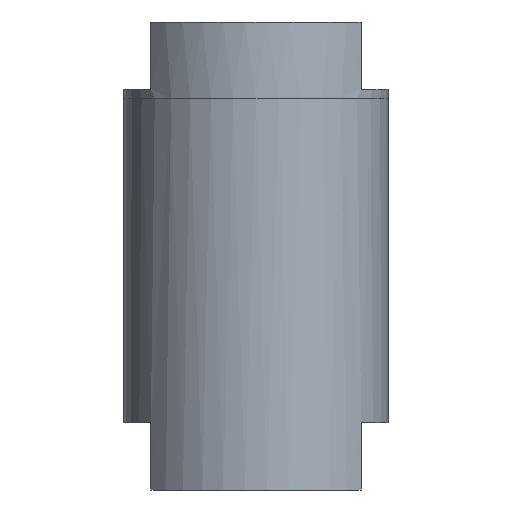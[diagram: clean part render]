
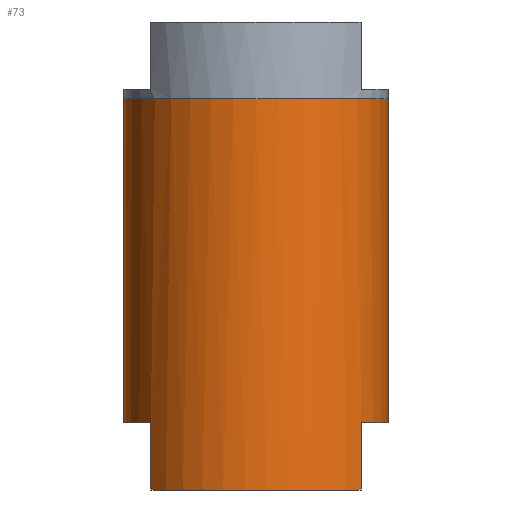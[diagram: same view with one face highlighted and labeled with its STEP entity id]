
A CAD part, front view. The second image highlights one B-rep face of the part: STEP entity #73.
In plain terms, the highlighted cylindrical face has radius 43.752 mm (diameter 87.503 mm), a partial arc.
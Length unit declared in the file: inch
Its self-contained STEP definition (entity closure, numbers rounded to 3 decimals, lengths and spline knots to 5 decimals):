
#24 = EDGE_CURVE ( 'NONE', #688, #691, #293, .T. ) ;
#31 = EDGE_CURVE ( 'NONE', #708, #707, #421, .T. ) ;
#59 = EDGE_CURVE ( 'NONE', #687, #700, #619, .T. ) ;
#73 = ADVANCED_FACE ( 'NONE', ( #585 ), #587, .T. ) ;
#82 = EDGE_CURVE ( 'NONE', #688, #687, #424, .T. ) ;
#84 = EDGE_CURVE ( 'NONE', #691, #682, #436, .T. ) ;
#85 = EDGE_CURVE ( 'NONE', #682, #708, #626, .T. ) ;
#86 = EDGE_CURVE ( 'NONE', #681, #707, #633, .T. ) ;
#88 = EDGE_CURVE ( 'NONE', #700, #681, #399, .T. ) ;
#102 = CARTESIAN_POINT ( 'NONE',  ( -1.37, -1.04408, 0.875 ) ) ;
#107 = CARTESIAN_POINT ( 'NONE',  ( 1.7225, 0., 5.099 ) ) ;
#108 = CARTESIAN_POINT ( 'NONE',  ( -1.7225, 0., 5.099 ) ) ;
#111 = CARTESIAN_POINT ( 'NONE',  ( -1.7225, 0., 0.875 ) ) ;
#120 = CARTESIAN_POINT ( 'NONE',  ( 1.7225, 0., 0.875 ) ) ;
#127 = CARTESIAN_POINT ( 'NONE',  ( 1.37, -1.04408, 0. ) ) ;
#128 = CARTESIAN_POINT ( 'NONE',  ( -1.37, -1.04408, 0. ) ) ;
#161 = EDGE_LOOP ( 'NONE', ( #384, #383, #382, #381, #663, #661, #660, #659 ) ) ;
#290 = CARTESIAN_POINT ( 'NONE',  ( -1.7225, 0., 6.1 ) ) ;
#293 = LINE ( 'NONE', #290, #416 ) ;
#298 = DIRECTION ( 'NONE',  ( 0., 0., -1. ) ) ;
#317 = CARTESIAN_POINT ( 'NONE',  ( 0., 0., 0. ) ) ;
#318 = DIRECTION ( 'NONE',  ( 0., 0., 1. ) ) ;
#319 = DIRECTION ( 'NONE',  ( 1., 0., 0. ) ) ;
#377 = DIRECTION ( 'NONE',  ( 0., 0., -1. ) ) ;
#381 = ORIENTED_EDGE ( 'NONE', *, *, #84, .T. ) ;
#382 = ORIENTED_EDGE ( 'NONE', *, *, #24, .T. ) ;
#383 = ORIENTED_EDGE ( 'NONE', *, *, #82, .F. ) ;
#384 = ORIENTED_EDGE ( 'NONE', *, *, #59, .F. ) ;
#397 = AXIS2_PLACEMENT_3D ( 'NONE', #640, #641, #642 ) ;
#399 = CIRCLE ( 'NONE', #397, 1.7225 ) ;
#407 = VECTOR ( 'NONE', #635, 39.37008 ) ;
#409 = AXIS2_PLACEMENT_3D ( 'NONE', #628, #629, #630 ) ;
#410 = VECTOR ( 'NONE', #632, 39.37008 ) ;
#416 = VECTOR ( 'NONE', #298, 39.37008 ) ;
#417 = AXIS2_PLACEMENT_3D ( 'NONE', #623, #624, #625 ) ;
#421 = CIRCLE ( 'NONE', #426, 1.7225 ) ;
#424 = CIRCLE ( 'NONE', #417, 1.7225 ) ;
#426 = AXIS2_PLACEMENT_3D ( 'NONE', #317, #318, #319 ) ;
#436 = CIRCLE ( 'NONE', #409, 1.7225 ) ;
#442 = AXIS2_PLACEMENT_3D ( 'NONE', #586, #577, #588 ) ;
#502 = VECTOR ( 'NONE', #377, 39.37008 ) ;
#577 = DIRECTION ( 'NONE',  ( 0., 0., -1. ) ) ;
#585 = FACE_OUTER_BOUND ( 'NONE', #161, .T. ) ;
#586 = CARTESIAN_POINT ( 'NONE',  ( 0., 0., 6.1 ) ) ;
#587 = CYLINDRICAL_SURFACE ( 'NONE', #442, 1.7225 ) ;
#588 = DIRECTION ( 'NONE',  ( -1., 0., 0. ) ) ;
#610 = CARTESIAN_POINT ( 'NONE',  ( 1.7225, 0., 6.1 ) ) ;
#619 = LINE ( 'NONE', #610, #502 ) ;
#623 = CARTESIAN_POINT ( 'NONE',  ( 0., 0., 5.099 ) ) ;
#624 = DIRECTION ( 'NONE',  ( 0., 0., 1. ) ) ;
#625 = DIRECTION ( 'NONE',  ( 1., 0., 0. ) ) ;
#626 = LINE ( 'NONE', #631, #410 ) ;
#628 = CARTESIAN_POINT ( 'NONE',  ( 0., 0., 0.875 ) ) ;
#629 = DIRECTION ( 'NONE',  ( 0., 0., 1. ) ) ;
#630 = DIRECTION ( 'NONE',  ( 1., 0., 0. ) ) ;
#631 = CARTESIAN_POINT ( 'NONE',  ( -1.37, -1.04408, 6.1 ) ) ;
#632 = DIRECTION ( 'NONE',  ( 0., 0., -1. ) ) ;
#633 = LINE ( 'NONE', #634, #407 ) ;
#634 = CARTESIAN_POINT ( 'NONE',  ( 1.37, -1.04408, 6.1 ) ) ;
#635 = DIRECTION ( 'NONE',  ( 0., 0., -1. ) ) ;
#640 = CARTESIAN_POINT ( 'NONE',  ( 0., 0., 0.875 ) ) ;
#641 = DIRECTION ( 'NONE',  ( 0., 0., -1. ) ) ;
#642 = DIRECTION ( 'NONE',  ( -1., 0., 0. ) ) ;
#643 = CARTESIAN_POINT ( 'NONE',  ( 1.37, -1.04408, 0.875 ) ) ;
#659 = ORIENTED_EDGE ( 'NONE', *, *, #88, .F. ) ;
#660 = ORIENTED_EDGE ( 'NONE', *, *, #86, .F. ) ;
#661 = ORIENTED_EDGE ( 'NONE', *, *, #31, .T. ) ;
#663 = ORIENTED_EDGE ( 'NONE', *, *, #85, .T. ) ;
#681 = VERTEX_POINT ( 'NONE', #643 ) ;
#682 = VERTEX_POINT ( 'NONE', #102 ) ;
#687 = VERTEX_POINT ( 'NONE', #107 ) ;
#688 = VERTEX_POINT ( 'NONE', #108 ) ;
#691 = VERTEX_POINT ( 'NONE', #111 ) ;
#700 = VERTEX_POINT ( 'NONE', #120 ) ;
#707 = VERTEX_POINT ( 'NONE', #127 ) ;
#708 = VERTEX_POINT ( 'NONE', #128 ) ;
